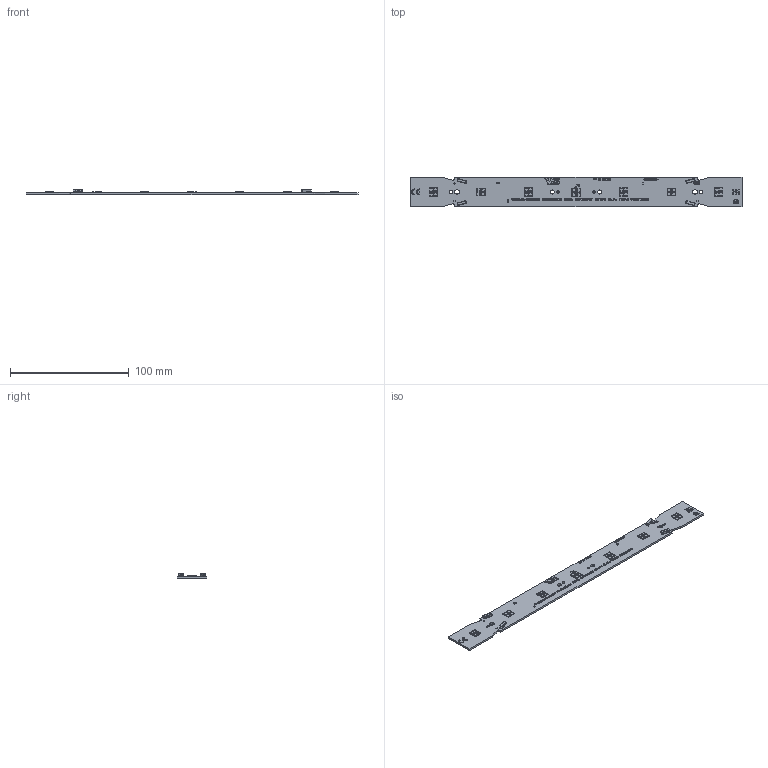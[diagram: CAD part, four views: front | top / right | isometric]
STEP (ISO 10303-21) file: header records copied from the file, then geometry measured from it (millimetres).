
FILE_DESCRIPTION(('Creo Elements/Direct Modeling STEP Export'),'2;1');
FILE_NAME('3D-Model_WU-M-684-SL-LV--White.stp','2022-10-06T 9:53:21',(''),(''),'PTC Creo Elements/Direct Modeling STEP processor for AP214 (Solid Model)','PTC Creo Elements/Direct Modeling 19.0E 27-Jun-2016 (C) Parametric Technology GmbH','');
FILE_SCHEMA(('AUTOMOTIVE_DESIGN { 1 0 10303 214 1 1 1 1 }'));
Length unit declared in the file: millimetre
Products named in the file (250): VECA-STRELICA-7740.PRT; VECA-STRELICA-8270.ASM; P1_98-8500.PRT; P1_99.ASM; P1_98-9020.ASM; P1_97.PRT; P1_96.PRT; P1_95.PRT; P1_94.PRT; P1_93-17250.PRT; P1_93-17770.ASM; P1_92-23620.PRT; P1_92-24100.ASM; P1_91-31570.PRT; P1_91-32090.ASM; P1_90-37120.PRT; P1_90-37580.ASM; P1_9-48350.PRT; P1_9-48950.ASM; P1_89-51140.PRT; P1_89-51530.ASM; P1_88-56960.PRT; P1_88-57430.ASM; P1_87-62480.PRT; P1_87-62940.ASM; P1_86-74130.PRT; P1_86-74740.ASM; P1_85-85070.PRT; P1_85-85660.ASM; P1_84-91510.PRT; P1_84-91990.ASM; P1_83-103180.PRT; P1_83-103790.ASM; P1_82-109240.PRT; P1_82-109710.ASM; P1_81-120460.PRT; P1_81-121060.ASM; P1_80-128530.PRT; P1_80-129050.ASM; P1_8-131240.PRT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
Assembly tree (283 placements, depth 3):
  3D-MODEL_WU-M-684-SL-LV_WHITE.stp
    2065_101_998_403-1100590.ASM
      2065_101_998_403-1099420.PRT
    2065_101_998_403_1.ASM
      2065_101_998_403-1099420.PRT
    2065_101_998_403_2.ASM
      2065_101_998_403-1099420.PRT
    2065_101_998_403_2_1.ASM
      2065_101_998_403-1099420.PRT
    A-1044250.ASM
      A-1043500.PRT
    BASE_PLOCA_WU-M-684-SL-1026910.ASM
      BASE_PLOCA_WU-M-684-SL-1026080.PRT
    C-1005850.ASM
      C-1005050.PRT
    C_1-986500.ASM
      C_1-985800.PRT
    DIODA_SEOUL-3030_STW8C2PB-E0_ST.ASM
      P1_PRT.PRT
      SKIN_GROUP1_PRT.PRT  x28
    E-945480.ASM
      E-944680.PRT
    K-926130.ASM
      K-925670.PRT
    MCU_0805_STP.ASM
      MCU_0805_PRT.PRT  x4
    OKVIR-914830.ASM
      OKVIR-914380.PRT
    PRAVOUGAONIK-908870.ASM
      PRAVOUGAONIK-908440.PRT
    TROUGAO-904650.ASM
      TROUGAO-904040.PRT
    U-893090.ASM
      U-892390.PRT
    VS-877840.ASM
      VS-876060.PRT
    MANJA-STRELICA-818310.ASM
      MANJA-STRELICA-817840.PRT
    MANJA-STRELICA2-812490.ASM
      MANJA-STRELICA2-812020.PRT
    P1-806670.ASM
      P1-806140.PRT
    P1_1-798230.ASM
      P1_1-797540.PRT
    P1_1_1.PRT
    P1_1_2.PRT
    P1_1_3.PRT
    P1_1_4.PRT
    P1_10-782390.ASM
      P1_10-781960.PRT
    P1_100.PRT
    P1_101.PRT
    P1_11-777770.ASM
      P1_11-777200.PRT
    P1_12-767690.ASM
      P1_12-767140.PRT
    P1_13-758410.ASM
      P1_13-757780.PRT
    P1_14-745790.ASM
      P1_14-745290.PRT
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Bounding box: 279 x 25 x 4.3 mm (x, y, z)
Volume: 11202.8 mm3; surface area: 16471.4 mm2
Topology: 144 solids, 144 shells, 4488 faces, 12676 edges, 8820 vertices
Faces by surface type: plane 3066, cylinder 1418, extrusion 4
Entity records: 108488 total; most frequent: CARTESIAN_POINT 14901, DIRECTION 14225, ORIENTED_EDGE 14210, EDGE_CURVE 7105, VECTOR 5695, LINE 5691, VERTEX_POINT 4749, AXIS2_PLACEMENT_3D 4265
